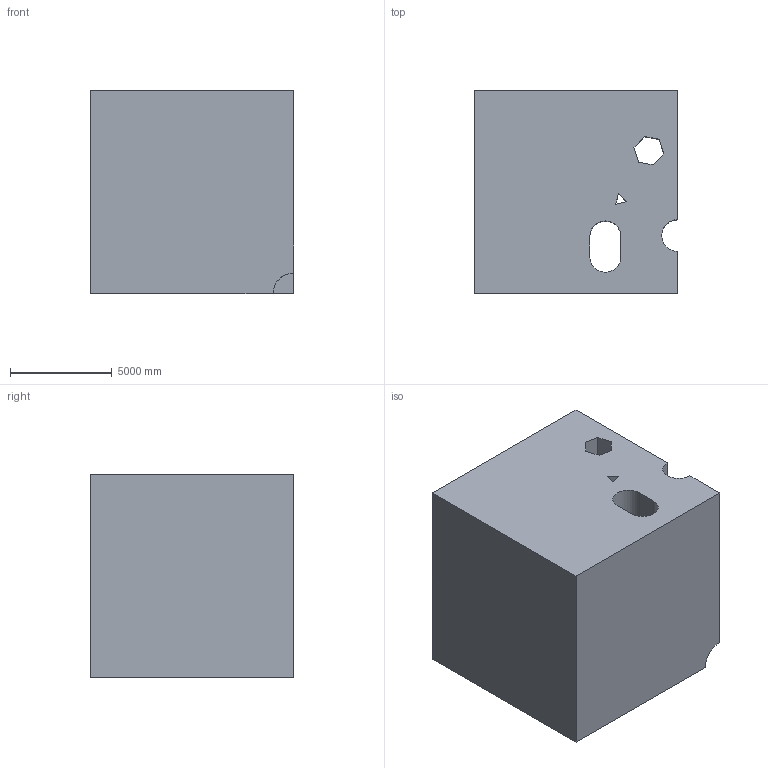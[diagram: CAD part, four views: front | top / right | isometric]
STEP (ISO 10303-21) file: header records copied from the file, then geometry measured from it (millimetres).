
FILE_DESCRIPTION (( 'STEP AP203' ), '1' );
FILE_NAME ('173.STEP', '2022-09-06T15:21:04', ( 'user' ), ( '' ), 'SwSTEP 2.0', 'SolidWorks 2021', '' );
FILE_SCHEMA (( 'CONFIG_CONTROL_DESIGN' ));
Length unit declared in the file: centimetre
Products named in the file (1): 173
Bounding box: 10000 x 10000 x 10000 mm (x, y, z)
Volume: 928163707909 mm3; surface area: 749720057.6 mm2
Topology: 1 solids, 1 shells, 38 faces, 105 edges, 70 vertices
Faces by surface type: plane 31, cylinder 7
Entity records: 1424 total; most frequent: CARTESIAN_POINT 348, ORIENTED_EDGE 210, DIRECTION 193, EDGE_CURVE 105, VECTOR 91, LINE 91, VERTEX_POINT 70, AXIS2_PLACEMENT_3D 51
